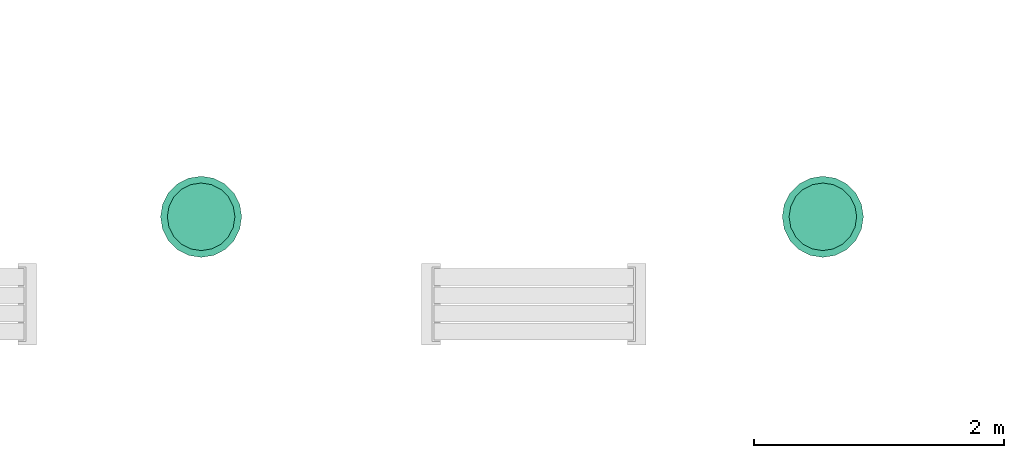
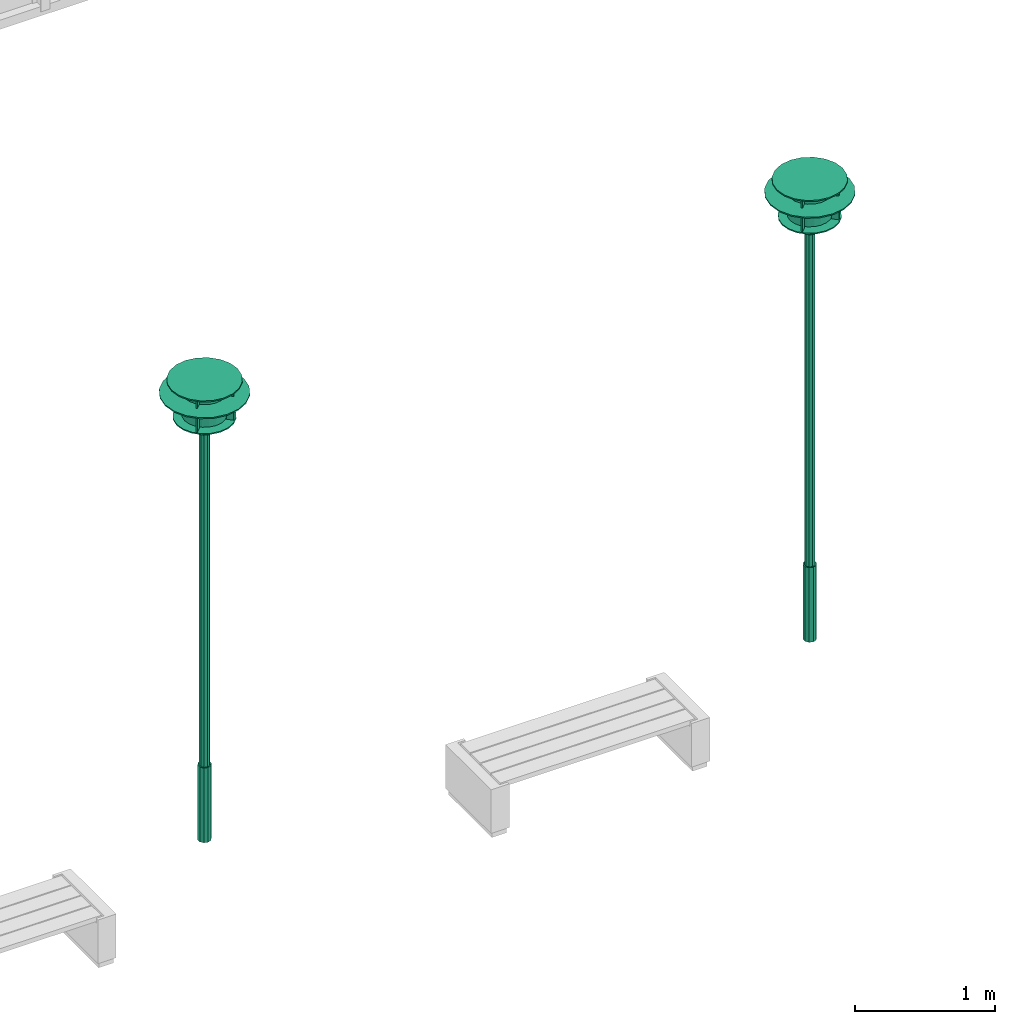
# One storey, part 2 of 8: 2 flow terminals.
"""IFC2X3 building model written with IfcOpenShell, lengths in millimetres."""

from ifc_helpers import new_model, entity, si_unit, converted_unit, derived_unit, direction, frame, frame_2d, origin, origin_2d_with_axis, place, context, subcontext, project, spatial, polyline, rectangle, outline, extrude, source, transform, mapped, material, material_list, type_object, type_shapes, element, save


model = new_model("IFC2X3")

# Units and contexts
model_context = context("Model", 3, precision=0.01, world=origin(), true_north=direction((6.12303176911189e-17, 1.0)))
body_context = subcontext(model_context, "Body", "Model", "MODEL_VIEW")
ifc_project = project(units=[si_unit("LENGTHUNIT", "METRE", prefix="MILLI"), si_unit("AREAUNIT", "SQUARE_METRE"), si_unit("VOLUMEUNIT", "CUBIC_METRE"), converted_unit("PLANEANGLEUNIT", "DEGREE", entity("IfcRatioMeasure", 0.0174532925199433), si_unit("PLANEANGLEUNIT", "RADIAN"), dimensions=[0, 0, 0, 0, 0, 0, 0]), si_unit("MASSUNIT", "GRAM", prefix="KILO"), derived_unit("MASSDENSITYUNIT", [(si_unit("MASSUNIT", "GRAM", prefix="KILO"), 1), (si_unit("LENGTHUNIT", "METRE"), -3)]), si_unit("TIMEUNIT", "SECOND"), si_unit("FREQUENCYUNIT", "HERTZ"), si_unit("THERMODYNAMICTEMPERATUREUNIT", "DEGREE_CELSIUS"), derived_unit("THERMALTRANSMITTANCEUNIT", [(si_unit("MASSUNIT", "GRAM", prefix="KILO"), 1), (si_unit("THERMODYNAMICTEMPERATUREUNIT", "KELVIN"), -1), (si_unit("TIMEUNIT", "SECOND"), -3)]), derived_unit("VOLUMETRICFLOWRATEUNIT", [(si_unit("LENGTHUNIT", "METRE"), 3), (si_unit("TIMEUNIT", "SECOND"), -1)]), si_unit("ELECTRICCURRENTUNIT", "AMPERE"), si_unit("ELECTRICVOLTAGEUNIT", "VOLT"), si_unit("POWERUNIT", "WATT"), si_unit("FORCEUNIT", "NEWTON", prefix="KILO"), si_unit("ILLUMINANCEUNIT", "LUX"), si_unit("LUMINOUSFLUXUNIT", "LUMEN"), si_unit("LUMINOUSINTENSITYUNIT", "CANDELA"), derived_unit("USERDEFINED", [(si_unit("MASSUNIT", "GRAM", prefix="KILO"), -1), (si_unit("LENGTHUNIT", "METRE"), -2), (si_unit("TIMEUNIT", "SECOND"), 3), (si_unit("LUMINOUSFLUXUNIT", "LUMEN"), 1)]), derived_unit("LINEARVELOCITYUNIT", [(si_unit("LENGTHUNIT", "METRE"), 1), (si_unit("TIMEUNIT", "SECOND"), -1)]), si_unit("PRESSUREUNIT", "PASCAL"), derived_unit("USERDEFINED", [(si_unit("LENGTHUNIT", "METRE"), -2), (si_unit("MASSUNIT", "GRAM", prefix="KILO"), 1), (si_unit("TIMEUNIT", "SECOND"), -2)])], contexts=[model_context])

# Site, building, storey
site_placement = place(None, origin())
site = spatial("IfcSite", under=ifc_project, at=site_placement, Name="Default", CompositionType="ELEMENT")
building_placement = place(site_placement, origin())
building = spatial("IfcBuilding", under=site, at=building_placement, CompositionType="ELEMENT")
storey_placement = place(building_placement, origin())
storey = spatial("IfcBuildingStorey", under=building, at=storey_placement, Name="Ground Floor", CompositionType="ELEMENT", Elevation=0.0)

# Flow terminals
ifc_material_1 = material(Name="Metal - Stainless Steel")
ifc_material_2 = material(Name="Glass - Satin")
ifc_material_list_1 = material_list([ifc_material_1, ifc_material_2])
ifc_material_list_2 = material_list([ifc_material_1, ifc_material_2])
light_fixture_type_1 = type_object("IfcLightFixtureType", Name="LI - 001", PredefinedType="NOTDEFINED", material=ifc_material_list_2)
shared_shape_1 = source(origin(), body_context, "Body", "SweptSolid", [
    extrude(outline(polyline([(-50.8412011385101, -320.998710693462), (50.841201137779, -320.998710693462), (147.546912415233, -289.57712036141), (229.809703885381, -229.809703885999), (289.577120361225, -147.546912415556), (320.998710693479, -50.8412011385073), (320.998710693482, 50.8412011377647), (289.577120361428, 147.546912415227), (229.809703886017, 229.809703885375), (147.546912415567, 289.577120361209), (50.8412011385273, 320.998710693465), (-50.8412011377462, 320.998710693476), (-147.546912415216, 289.577120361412), (-229.809703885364, 229.809703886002), (-289.577120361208, 147.546912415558), (-320.998710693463, 50.8412011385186), (-320.998710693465, -50.841201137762), (-289.577120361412, -147.546912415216), (-229.809703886, -229.809703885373), (-147.54691241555, -289.577120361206), (-50.8412011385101, -320.998710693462)]), holes=[polyline([(73.7734562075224, -144.78856018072), (25.4206005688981, -160.49935534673), (-25.4206005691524, -160.499355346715), (-73.7734562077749, -144.788560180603), (-114.904851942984, -114.904851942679), (-144.788560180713, -73.7734562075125), (-160.499355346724, -25.4206005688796), (-160.499355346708, 25.4206005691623), (-144.788560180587, 73.7734562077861), (-114.904851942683, 114.904851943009), (-73.7734562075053, 144.788560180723), (-25.4206005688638, 160.499355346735), (25.4206005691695, 160.499355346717), (73.7734562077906, 144.788560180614), (114.904851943, 114.904851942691), (144.788560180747, 73.7734562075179), (160.499355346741, 25.4206005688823), (160.499355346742, -25.4206005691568), (144.788560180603, -73.7734562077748), (114.904851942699, -114.904851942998), (73.7734562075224, -144.78856018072)])]), frame((80881.5537257, 57660.3691672, 3881.66666667), z_axis=(0.0, 0.0, 1.0), x_axis=(0.98768834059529, -0.15643446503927, 0.0)), (0.0, 0.0, 1.0), 9.99999999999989),
    extrude(outline(polyline([(-42.3676676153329, -267.498925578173), (42.3676676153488, -267.498925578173), (122.955760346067, -241.314266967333), (191.508086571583, -191.508086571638), (241.314266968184, -122.955760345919), (267.498925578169, -42.3676676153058), (267.498925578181, 42.3676676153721), (241.314266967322, 122.955760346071), (191.508086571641, 191.508086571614), (122.955760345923, 241.314266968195), (42.3676676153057, 267.498925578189), (-42.3676676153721, 267.498925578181), (-122.955760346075, 241.314266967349), (-191.508086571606, 191.508086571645), (-241.314266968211, 122.955760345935), (-267.498925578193, 42.3676676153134), (-267.498925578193, -42.367667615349), (-241.314266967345, -122.955760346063), (-191.508086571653, -191.508086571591), (-122.955760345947, -241.314266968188), (-42.3676676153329, -267.498925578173)])), frame((80881.5537257, 57660.3691672, 3990.0), z_axis=(0.0, 0.0, 1.0), x_axis=(0.891006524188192, -0.453990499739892, 0.0)), (0.0, 0.0, 1.0), 9.99999999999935),
    extrude(outline(polyline([(-14.0791018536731, -88.891950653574), (14.0791018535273, -88.891950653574), (40.859144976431, -80.1905871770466), (63.6396103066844, -63.6396103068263), (80.1905871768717, -40.8591449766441), (88.8919506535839, -14.0791018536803), (88.8919506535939, 14.0791018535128), (80.1905871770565, 40.8591449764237), (63.6396103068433, 63.6396103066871), (40.8591449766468, 80.1905871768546), (14.0791018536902, 88.8919506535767), (-14.0791018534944, 88.891950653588), (-40.8591449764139, 80.1905871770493), (-63.6396103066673, 63.639610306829), (-80.1905871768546, 40.8591449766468), (-88.8919506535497, 14.0791018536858), (-88.8919506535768, -14.0791018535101), (-80.1905871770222, -40.8591449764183), (-63.6396103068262, -63.6396103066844), (-40.8591449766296, -80.1905871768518), (-14.0791018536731, -88.891950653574)]), holes=[polyline([(18.1596199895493, -35.6402609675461), (6.25737860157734, -39.5075336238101), (-6.25737860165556, -39.507533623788), (-18.1596199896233, -35.6402609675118), (-28.2842712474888, -28.2842712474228), (-35.6402609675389, -18.1596199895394), (-39.5075336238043, -6.25737860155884), (-39.5075336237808, 6.2573786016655), (-35.6402609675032, 18.1596199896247), (-28.2842712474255, 28.284271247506), (-18.1596199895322, 35.6402609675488), (-6.25737860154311, 39.5075336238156), (6.25737860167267, 39.5075336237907), (18.1596199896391, 35.640260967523), (28.2842712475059, 28.2842712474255), (35.640260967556, 18.1596199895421), (39.5075336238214, 6.25737860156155), (39.5075336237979, -6.25737860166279), (35.6402609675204, -18.159619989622), (28.2842712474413, -28.2842712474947), (18.1596199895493, -35.6402609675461)])]), frame((80881.5537257, 57660.3691672, 3575.0), z_axis=(0.0, 0.0, 1.0), x_axis=(0.987688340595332, -0.156434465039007, 0.0)), (0.0, 0.0, 1.0), 9.99999999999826),
    extrude(outline(polyline([(-14.0791018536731, -88.891950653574), (14.0791018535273, -88.891950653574), (40.859144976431, -80.1905871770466), (63.6396103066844, -63.6396103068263), (80.1905871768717, -40.8591449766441), (88.8919506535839, -14.0791018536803), (88.8919506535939, 14.0791018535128), (80.1905871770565, 40.8591449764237), (63.6396103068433, 63.6396103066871), (40.8591449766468, 80.1905871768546), (14.0791018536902, 88.8919506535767), (-14.0791018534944, 88.891950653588), (-40.8591449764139, 80.1905871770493), (-63.6396103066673, 63.639610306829), (-80.1905871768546, 40.8591449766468), (-88.8919506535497, 14.0791018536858), (-88.8919506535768, -14.0791018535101), (-80.1905871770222, -40.8591449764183), (-63.6396103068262, -63.6396103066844), (-40.8591449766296, -80.1905871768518), (-14.0791018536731, -88.891950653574)]), holes=[polyline([(18.1596199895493, -35.6402609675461), (6.25737860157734, -39.5075336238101), (-6.25737860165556, -39.507533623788), (-18.1596199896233, -35.6402609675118), (-28.2842712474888, -28.2842712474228), (-35.6402609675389, -18.1596199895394), (-39.5075336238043, -6.25737860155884), (-39.5075336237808, 6.2573786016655), (-35.6402609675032, 18.1596199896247), (-28.2842712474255, 28.284271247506), (-18.1596199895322, 35.6402609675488), (-6.25737860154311, 39.5075336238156), (6.25737860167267, 39.5075336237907), (18.1596199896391, 35.640260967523), (28.2842712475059, 28.2842712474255), (35.640260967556, 18.1596199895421), (39.5075336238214, 6.25737860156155), (39.5075336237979, -6.25737860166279), (35.6402609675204, -18.159619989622), (28.2842712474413, -28.2842712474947), (18.1596199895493, -35.6402609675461)])]), frame((80881.5537257, 57660.3691672, 3625.0), z_axis=(0.0, 0.0, 1.0), x_axis=(0.987688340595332, -0.156434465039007, 0.0)), (0.0, 0.0, 1.0), 9.99999999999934),
    extrude(outline(polyline([(-35.5888407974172, -224.699097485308), (35.5888407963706, -224.699097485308), (103.28283869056, -202.703984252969), (160.866792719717, -160.866792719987), (202.703984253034, -103.28283869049), (224.699097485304, -35.5888407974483), (224.699097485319, 35.5888407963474), (202.703984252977, 103.282838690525), (160.866792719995, 160.866792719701), (103.282838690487, 202.703984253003), (35.5888407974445, 224.699097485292), (-35.5888407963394, 224.699097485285), (-103.282838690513, 202.703984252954), (-160.866792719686, 160.866792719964), (-202.703984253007, 103.282838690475), (-224.699097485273, 35.5888407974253), (-224.699097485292, -35.5888407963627), (-202.703984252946, -103.282838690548), (-160.866792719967, -160.866792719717), (-103.282838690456, -202.703984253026), (-35.5888407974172, -224.699097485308)])), frame((80881.5537257, 57660.3691672, 3675.0), z_axis=(0.0, 0.0, 1.0), x_axis=(0.891006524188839, -0.453990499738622, 0.0)), (0.0, 0.0, 1.0), 10.0000000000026),
    extrude(outline(polyline([(-25.4206005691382, -160.499355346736), (25.4206005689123, -160.499355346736), (73.773456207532, -144.788560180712), (114.9048519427, -114.904851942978), (144.788560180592, -73.7734562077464), (160.499355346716, -25.4206005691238), (160.499355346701, 25.4206005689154), (144.788560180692, 73.7734562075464), (114.904851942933, 114.90485194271), (73.7734562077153, 144.788560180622), (25.4206005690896, 160.499355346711), (-25.4206005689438, 160.499355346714), (-73.7734562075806, 144.788560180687), (-114.90485194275, 114.904851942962), (-144.788560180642, 73.7734562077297), (-160.499355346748, 25.4206005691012), (-160.499355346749, -25.4206005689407), (-144.788560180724, -73.7734562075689), (-114.904851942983, -114.904851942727), (-73.7734562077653, -144.788560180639), (-25.4206005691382, -160.499355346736)])), frame((80881.5537257, 57660.3691672, 3695.0), z_axis=(0.0, 0.0, 1.0), x_axis=(0.987688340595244, -0.156434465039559, 0.0)), (0.0, 0.0, 1.0), 284.999999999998),
    extrude(rectangle(XDim=10.0000000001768, YDim=54.1666666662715, at=origin_2d_with_axis()), frame((80747.4980651, 57526.3135066, 3891.66666667), z_axis=(0.0, 0.0, 1.0), x_axis=(-0.707106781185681, 0.707106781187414, 0.0)), (0.0, 0.0, 1.0), 98.3333333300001),
    extrude(rectangle(XDim=10.0000000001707, YDim=54.1666666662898, at=frame_2d((1.22506449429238e-11, -1.22515331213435e-11), x_axis=(1.0, 0.0))), frame((80747.4980651, 57794.4248278, 3891.66666667), z_axis=(0.0, 0.0, 1.0), x_axis=(0.707106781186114, 0.707106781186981, 0.0)), (0.0, 0.0, 1.0), 98.3333333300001),
    extrude(rectangle(XDim=10.0000000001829, YDim=54.1666666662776, at=frame_2d((6.12576656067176e-12, -6.12487838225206e-12), x_axis=(1.0, 0.0))), frame((81015.6093863, 57794.4248278, 3891.66666667), z_axis=(0.0, 0.0, 1.0), x_axis=(0.707106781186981, -0.707106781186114, 0.0)), (0.0, 0.0, 1.0), 98.3333333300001),
    extrude(rectangle(XDim=10.000000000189, YDim=54.1666666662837, at=frame_2d((6.12487838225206e-12, -6.12487838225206e-12), x_axis=(1.0, 0.0))), frame((81015.6093863, 57526.3135066, 3891.66666667), z_axis=(0.0, 0.0, 1.0), x_axis=(-0.707106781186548, -0.707106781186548, 0.0)), (0.0, 0.0, 1.0), 98.3333333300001),
    extrude(rectangle(XDim=10.0000000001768, YDim=54.1666666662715, at=origin_2d_with_axis()), frame((80747.4980651, 57526.3135066, 3685.0), z_axis=(0.0, 0.0, 1.0), x_axis=(-0.707106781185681, 0.707106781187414, 0.0)), (0.0, 0.0, 1.0), 196.66666667),
    extrude(rectangle(XDim=10.0000000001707, YDim=54.1666666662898, at=frame_2d((1.22506449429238e-11, -1.22515331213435e-11), x_axis=(1.0, 0.0))), frame((80747.4980651, 57794.4248278, 3685.0), z_axis=(0.0, 0.0, 1.0), x_axis=(0.707106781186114, 0.707106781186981, 0.0)), (0.0, 0.0, 1.0), 196.66666667),
    extrude(rectangle(XDim=10.0000000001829, YDim=54.1666666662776, at=frame_2d((6.12576656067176e-12, -6.12487838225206e-12), x_axis=(1.0, 0.0))), frame((81015.6093863, 57794.4248278, 3685.0), z_axis=(0.0, 0.0, 1.0), x_axis=(0.707106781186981, -0.707106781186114, 0.0)), (0.0, 0.0, 1.0), 196.66666667),
    extrude(rectangle(XDim=10.000000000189, YDim=54.1666666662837, at=frame_2d((6.12487838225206e-12, -6.12487838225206e-12), x_axis=(1.0, 0.0))), frame((81015.6093863, 57526.3135066, 3685.0), z_axis=(0.0, 0.0, 1.0), x_axis=(-0.707106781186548, -0.707106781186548, 0.0)), (0.0, 0.0, 1.0), 196.66666667),
    extrude(outline(polyline([(-12.360679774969, -38.0422606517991), (12.3606797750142, -38.0422606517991), (32.3606797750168, -23.5114100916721), (40.0, 0.0), (32.3606797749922, 23.5114100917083), (12.3606797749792, 38.0422606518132), (-12.3606797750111, 38.0422606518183), (-32.3606797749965, 23.5114100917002), (-40.0, 0.0), (-32.360679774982, -23.5114100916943), (-12.360679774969, -38.0422606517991)])), frame((80881.5537257, 57660.3691672, 3350.0), z_axis=(0.0, 0.0, 1.0), x_axis=(0.58778525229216, -0.809016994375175, 0.0)), (0.0, 0.0, 1.0), 325.0),
    extrude(outline(polyline([(-12.360679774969, -38.0422606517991), (12.3606797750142, -38.0422606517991), (32.3606797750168, -23.5114100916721), (40.0, 0.0), (32.3606797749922, 23.5114100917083), (12.3606797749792, 38.0422606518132), (-12.3606797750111, 38.0422606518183), (-32.3606797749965, 23.5114100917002), (-40.0, 0.0), (-32.360679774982, -23.5114100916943), (-12.360679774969, -38.0422606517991)])), frame((80881.5537257, 57660.3691672, 650.0), z_axis=(0.0, 0.0, 1.0), x_axis=(0.58778525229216, -0.809016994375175, 0.0)), (0.0, 0.0, 1.0), 2700.0),
    extrude(outline(polyline([(-15.4508497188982, -47.5528258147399), (15.4508497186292, -47.5528258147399), (40.4508497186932, -29.3892626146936), (50.0, 0.0), (40.4508497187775, 29.3892626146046), (15.450849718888, 47.5528258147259), (-15.4508497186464, 47.552825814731), (-40.4508497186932, 29.3892626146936), (-50.0, 0.0), (-40.4508497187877, -29.3892626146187), (-15.4508497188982, -47.5528258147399)])), frame((80881.5537257, 57660.3691672, 0.0), z_axis=(0.0, 0.0, 1.0), x_axis=(0.587785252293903, -0.809016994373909, 0.0)), (0.0, 0.0, 1.0), 650.0),
])
type_shapes(light_fixture_type_1, [shared_shape_1])
flow_terminal_1_placement = place(storey_placement, origin())
element("IfcFlowTerminal", 1, at=flow_terminal_1_placement, inside=storey, type_object=light_fixture_type_1, material=ifc_material_list_1, Name="LI - 001:LI - 001", ObjectType="LI - 001:LI - 001", context=body_context, shape_type="MappedRepresentation", body=[
    mapped(shared_shape_1, transform((0.0, 0.0, 0.0), scale=1.0)),
])
ifc_material_list_3 = material_list([ifc_material_1, ifc_material_2])
ifc_material_list_4 = material_list([ifc_material_1, ifc_material_2])
light_fixture_type_2 = type_object("IfcLightFixtureType", Name="LI - 001", PredefinedType="NOTDEFINED", material=ifc_material_list_4)
shared_shape_2 = source(origin(), body_context, "Body", "SweptSolid", [
    extrude(outline(polyline([(-50.8412011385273, -320.998710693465), (50.8412011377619, -320.998710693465), (147.546912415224, -289.577120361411), (229.809703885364, -229.809703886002), (289.577120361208, -147.546912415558), (320.998710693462, -50.84120113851), (320.998710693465, 50.8412011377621), (289.577120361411, 147.546912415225), (229.809703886, 229.809703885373), (147.54691241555, 289.577120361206), (50.8412011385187, 320.998710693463), (-50.8412011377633, 320.998710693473), (-147.546912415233, 289.57712036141), (-229.809703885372, 229.809703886), (-289.577120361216, 147.546912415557), (-320.998710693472, 50.8412011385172), (-320.998710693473, -50.8412011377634), (-289.577120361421, -147.546912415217), (-229.809703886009, -229.809703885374), (-147.546912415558, -289.577120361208), (-50.8412011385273, -320.998710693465)]), holes=[polyline([(73.7734562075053, -144.788560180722), (25.420600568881, -160.499355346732), (-25.420600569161, -160.499355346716), (-73.7734562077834, -144.788560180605), (-114.904851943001, -114.904851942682), (-144.78856018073, -73.7734562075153), (-160.499355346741, -25.4206005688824), (-160.499355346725, 25.4206005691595), (-144.788560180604, 73.7734562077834), (-114.904851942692, 114.904851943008), (-73.7734562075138, 144.788560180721), (-25.420600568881, 160.499355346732), (25.4206005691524, 160.499355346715), (73.7734562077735, 144.788560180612), (114.904851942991, 114.904851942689), (144.788560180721, 73.7734562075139), (160.499355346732, 25.420600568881), (160.499355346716, -25.4206005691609), (144.788560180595, -73.7734562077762), (114.904851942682, -114.904851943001), (73.7734562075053, -144.788560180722)])]), frame((75899.3967021, 57660.3691672, 3881.66666667), z_axis=(0.0, 0.0, 1.0), x_axis=(0.98768834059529, -0.15643446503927, 0.0)), (0.0, 0.0, 1.0), 9.99999999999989),
    extrude(outline(polyline([(-42.3676676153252, -267.498925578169), (42.3676676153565, -267.498925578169), (122.955760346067, -241.314266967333), (191.508086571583, -191.508086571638), (241.314266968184, -122.955760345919), (267.498925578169, -42.3676676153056), (267.498925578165, 42.3676676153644), (241.314266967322, 122.955760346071), (191.508086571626, 191.508086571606), (122.955760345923, 241.314266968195), (42.3676676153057, 267.498925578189), (-42.3676676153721, 267.498925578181), (-122.955760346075, 241.314266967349), (-191.508086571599, 191.508086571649), (-241.314266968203, 122.955760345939), (-267.498925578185, 42.3676676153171), (-267.498925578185, -42.3676676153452), (-241.314266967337, -122.955760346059), (-191.508086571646, -191.508086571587), (-122.955760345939, -241.314266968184), (-42.3676676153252, -267.498925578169)])), frame((75899.3967021, 57660.3691672, 3990.0), z_axis=(0.0, 0.0, 1.0), x_axis=(0.891006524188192, -0.453990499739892, 0.0)), (0.0, 0.0, 1.0), 9.99999999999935),
    extrude(outline(polyline([(-14.0791018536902, -88.8919506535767), (14.0791018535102, -88.8919506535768), (40.8591449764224, -80.1905871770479), (63.6396103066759, -63.6396103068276), (80.1905871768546, -40.8591449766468), (88.8919506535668, -14.0791018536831), (88.8919506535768, 14.0791018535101), (80.1905871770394, 40.859144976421), (63.6396103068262, 63.6396103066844), (40.8591449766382, 80.1905871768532), (14.0791018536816, 88.8919506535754), (-14.0791018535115, 88.8919506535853), (-40.859144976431, 80.1905871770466), (-63.6396103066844, 63.6396103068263), (-80.1905871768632, 40.8591449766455), (-88.8919506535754, 14.0791018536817), (-88.8919506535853, -14.0791018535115), (-80.1905871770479, -40.8591449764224), (-63.6396103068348, -63.6396103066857), (-40.8591449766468, -80.1905871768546), (-14.0791018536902, -88.8919506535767)]), holes=[polyline([(18.1596199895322, -35.6402609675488), (6.25737860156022, -39.5075336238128), (-6.25737860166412, -39.5075336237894), (-18.1596199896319, -35.6402609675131), (-28.2842712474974, -28.2842712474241), (-35.6402609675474, -18.1596199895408), (-39.5075336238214, -6.25737860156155), (-39.5075336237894, 6.25737860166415), (-35.6402609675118, 18.1596199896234), (-28.2842712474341, 28.2842712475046), (-18.1596199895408, 35.6402609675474), (-6.25737860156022, 39.5075336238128), (6.25737860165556, 39.507533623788), (18.159619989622, 35.6402609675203), (28.2842712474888, 28.2842712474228), (35.6402609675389, 18.1596199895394), (39.5075336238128, 6.25737860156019), (39.5075336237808, -6.2573786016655), (35.6402609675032, -18.1596199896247), (28.2842712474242, -28.2842712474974), (18.1596199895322, -35.6402609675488)])]), frame((75899.3967021, 57660.3691672, 3575.0), z_axis=(0.0, 0.0, 1.0), x_axis=(0.987688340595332, -0.156434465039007, 0.0)), (0.0, 0.0, 1.0), 9.99999999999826),
    extrude(outline(polyline([(-14.0791018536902, -88.8919506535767), (14.0791018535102, -88.8919506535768), (40.8591449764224, -80.1905871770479), (63.6396103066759, -63.6396103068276), (80.1905871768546, -40.8591449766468), (88.8919506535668, -14.0791018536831), (88.8919506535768, 14.0791018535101), (80.1905871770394, 40.859144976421), (63.6396103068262, 63.6396103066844), (40.8591449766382, 80.1905871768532), (14.0791018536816, 88.8919506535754), (-14.0791018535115, 88.8919506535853), (-40.859144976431, 80.1905871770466), (-63.6396103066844, 63.6396103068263), (-80.1905871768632, 40.8591449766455), (-88.8919506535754, 14.0791018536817), (-88.8919506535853, -14.0791018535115), (-80.1905871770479, -40.8591449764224), (-63.6396103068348, -63.6396103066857), (-40.8591449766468, -80.1905871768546), (-14.0791018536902, -88.8919506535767)]), holes=[polyline([(18.1596199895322, -35.6402609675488), (6.25737860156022, -39.5075336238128), (-6.25737860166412, -39.5075336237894), (-18.1596199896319, -35.6402609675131), (-28.2842712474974, -28.2842712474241), (-35.6402609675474, -18.1596199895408), (-39.5075336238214, -6.25737860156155), (-39.5075336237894, 6.25737860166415), (-35.6402609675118, 18.1596199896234), (-28.2842712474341, 28.2842712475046), (-18.1596199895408, 35.6402609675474), (-6.25737860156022, 39.5075336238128), (6.25737860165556, 39.507533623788), (18.159619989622, 35.6402609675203), (28.2842712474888, 28.2842712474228), (35.6402609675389, 18.1596199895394), (39.5075336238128, 6.25737860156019), (39.5075336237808, -6.2573786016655), (35.6402609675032, -18.1596199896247), (28.2842712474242, -28.2842712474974), (18.1596199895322, -35.6402609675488)])]), frame((75899.3967021, 57660.3691672, 3625.0), z_axis=(0.0, 0.0, 1.0), x_axis=(0.987688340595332, -0.156434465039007, 0.0)), (0.0, 0.0, 1.0), 9.99999999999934),
    extrude(outline(polyline([(-35.5888407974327, -224.699097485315), (35.5888407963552, -224.699097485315), (103.282838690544, -202.703984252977), (160.866792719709, -160.866792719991), (202.703984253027, -103.282838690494), (224.699097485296, -35.5888407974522), (224.699097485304, 35.5888407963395), (202.703984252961, 103.282838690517), (160.866792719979, 160.866792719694), (103.282838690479, 202.703984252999), (35.5888407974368, 224.699097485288), (-35.5888407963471, 224.699097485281), (-103.282838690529, 202.703984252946), (-160.866792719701, 160.866792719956), (-202.703984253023, 103.282838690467), (-224.699097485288, 35.5888407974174), (-224.6990974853, -35.5888407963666), (-202.703984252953, -103.282838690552), (-160.866792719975, -160.866792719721), (-103.282838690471, -202.703984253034), (-35.5888407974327, -224.699097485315)])), frame((75899.3967021, 57660.3691672, 3675.0), z_axis=(0.0, 0.0, 1.0), x_axis=(0.891006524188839, -0.453990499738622, 0.0)), (0.0, 0.0, 1.0), 10.0000000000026),
    extrude(outline(polyline([(-25.4206005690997, -160.499355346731), (25.4206005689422, -160.499355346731), (73.7734562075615, -144.788560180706), (114.904851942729, -114.904851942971), (144.788560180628, -73.7734562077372), (160.499355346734, -25.4206005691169), (160.499355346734, 25.420600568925), (144.788560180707, 73.7734562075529), (114.904851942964, 114.904851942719), (73.7734562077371, 144.788560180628), (25.420600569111, 160.499355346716), (-25.4206005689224, 160.499355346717), (-73.7734562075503, 144.78856018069), (-114.904851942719, 114.904851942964), (-144.788560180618, 73.77345620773), (-160.499355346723, 25.4206005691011), (-160.499355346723, -25.4206005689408), (-144.788560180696, -73.7734562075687), (-114.904851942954, -114.904851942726), (-73.7734562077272, -144.788560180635), (-25.4206005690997, -160.499355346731)])), frame((75899.3967021, 57660.3691672, 3695.0), z_axis=(0.0, 0.0, 1.0), x_axis=(0.98768834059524, -0.156434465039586, 0.0)), (0.0, 0.0, 1.0), 284.999999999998),
    extrude(rectangle(XDim=10.0000000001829, YDim=54.1666666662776, at=frame_2d((6.12621064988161e-12, 6.12487838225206e-12), x_axis=(1.0, 0.0))), frame((75765.3410415, 57526.3135066, 3891.66666667), z_axis=(0.0, 0.0, 1.0), x_axis=(-0.707106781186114, 0.707106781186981, 0.0)), (0.0, 0.0, 1.0), 98.3333333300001),
    extrude(rectangle(XDim=10.0000000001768, YDim=54.1666666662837, at=origin_2d_with_axis()), frame((75765.3410415, 57794.4248278, 3891.66666667), z_axis=(0.0, 0.0, 1.0), x_axis=(0.707106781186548, 0.707106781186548, 0.0)), (0.0, 0.0, 1.0), 98.3333333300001),
    extrude(rectangle(XDim=10.0000000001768, YDim=54.1666666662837, at=frame_2d((1.22510890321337e-11, 1.77635683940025e-15), x_axis=(1.0, 0.0))), frame((76033.4523627, 57794.4248278, 3891.66666667), z_axis=(0.0, 0.0, 1.0), x_axis=(0.707106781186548, -0.707106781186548, 0.0)), (0.0, 0.0, 1.0), 98.3333333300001),
    extrude(rectangle(XDim=10.0000000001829, YDim=54.1666666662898, at=origin_2d_with_axis()), frame((76033.4523627, 57526.3135066, 3891.66666667), z_axis=(0.0, 0.0, 1.0), x_axis=(-0.707106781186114, -0.707106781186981, 0.0)), (0.0, 0.0, 1.0), 98.3333333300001),
    extrude(rectangle(XDim=10.0000000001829, YDim=54.1666666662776, at=frame_2d((6.12621064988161e-12, 6.12487838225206e-12), x_axis=(1.0, 0.0))), frame((75765.3410415, 57526.3135066, 3685.0), z_axis=(0.0, 0.0, 1.0), x_axis=(-0.707106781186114, 0.707106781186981, 0.0)), (0.0, 0.0, 1.0), 196.66666667),
    extrude(rectangle(XDim=10.0000000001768, YDim=54.1666666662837, at=origin_2d_with_axis()), frame((75765.3410415, 57794.4248278, 3685.0), z_axis=(0.0, 0.0, 1.0), x_axis=(0.707106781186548, 0.707106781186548, 0.0)), (0.0, 0.0, 1.0), 196.66666667),
    extrude(rectangle(XDim=10.0000000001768, YDim=54.1666666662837, at=frame_2d((1.22510890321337e-11, 1.77635683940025e-15), x_axis=(1.0, 0.0))), frame((76033.4523627, 57794.4248278, 3685.0), z_axis=(0.0, 0.0, 1.0), x_axis=(0.707106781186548, -0.707106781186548, 0.0)), (0.0, 0.0, 1.0), 196.66666667),
    extrude(rectangle(XDim=10.0000000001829, YDim=54.1666666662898, at=origin_2d_with_axis()), frame((76033.4523627, 57526.3135066, 3685.0), z_axis=(0.0, 0.0, 1.0), x_axis=(-0.707106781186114, -0.707106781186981, 0.0)), (0.0, 0.0, 1.0), 196.66666667),
    extrude(outline(polyline([(-12.3606797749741, -38.0422606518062), (12.3606797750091, -38.0422606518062), (32.3606797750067, -23.5114100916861), (40.0, 0.0), (32.360679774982, 23.5114100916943), (12.360679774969, 38.0422606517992), (-12.3606797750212, 38.0422606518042), (-32.3606797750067, 23.5114100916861), (-40.0, 0.0), (-32.3606797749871, -23.5114100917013), (-12.3606797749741, -38.0422606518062)])), frame((75899.3967021, 57660.3691672, 3350.0), z_axis=(0.0, 0.0, 1.0), x_axis=(0.58778525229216, -0.809016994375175, 0.0)), (0.0, 0.0, 1.0), 325.0),
    extrude(outline(polyline([(-12.3606797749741, -38.0422606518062), (12.3606797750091, -38.0422606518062), (32.3606797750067, -23.5114100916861), (40.0, 0.0), (32.360679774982, 23.5114100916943), (12.360679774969, 38.0422606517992), (-12.3606797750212, 38.0422606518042), (-32.3606797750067, 23.5114100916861), (-40.0, 0.0), (-32.3606797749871, -23.5114100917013), (-12.3606797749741, -38.0422606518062)])), frame((75899.3967021, 57660.3691672, 650.0), z_axis=(0.0, 0.0, 1.0), x_axis=(0.58778525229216, -0.809016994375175, 0.0)), (0.0, 0.0, 1.0), 2700.0),
    extrude(outline(polyline([(-15.450849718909, -47.5528258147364), (15.4508497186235, -47.5528258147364), (40.4508497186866, -29.3892626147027), (50.0, 0.0), (40.4508497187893, 29.3892626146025), (15.4508497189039, 47.5528258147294), (-15.4508497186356, 47.5528258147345), (-40.4508497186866, 29.3892626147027), (-50.0, 0.0), (-40.4508497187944, -29.3892626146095), (-15.450849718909, -47.5528258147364)])), frame((75899.3967021, 57660.3691672, 0.0), z_axis=(0.0, 0.0, 1.0), x_axis=(0.587785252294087, -0.809016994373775, 0.0)), (0.0, 0.0, 1.0), 650.0),
])
type_shapes(light_fixture_type_2, [shared_shape_2])
flow_terminal_2_placement = place(storey_placement, origin())
element("IfcFlowTerminal", 2, at=flow_terminal_2_placement, inside=storey, type_object=light_fixture_type_2, material=ifc_material_list_3, Name="LI - 001 1676287:LI - 001 1676287", ObjectType="LI - 001 1676287:LI - 001 1676287", context=body_context, shape_type="MappedRepresentation", body=[
    mapped(shared_shape_2, transform((0.0, 0.0, 0.0), scale=1.0)),
])

save(model, "model.ifc")
